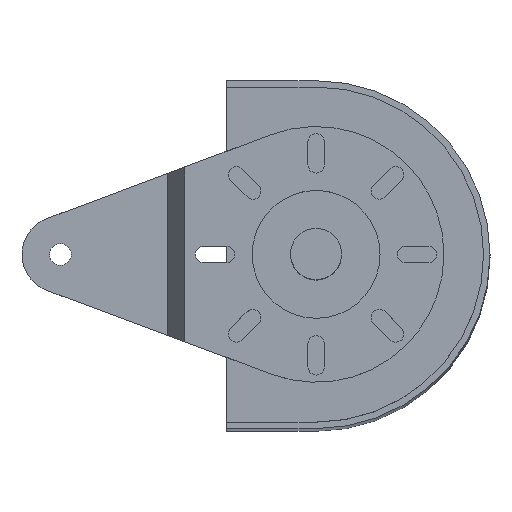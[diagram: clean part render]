
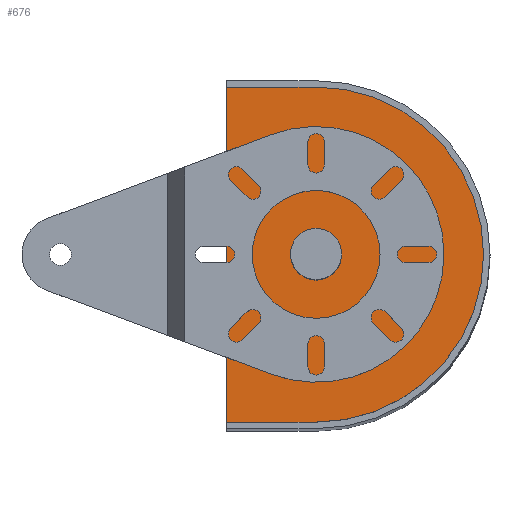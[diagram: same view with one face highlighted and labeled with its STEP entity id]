
A CAD part, top view. The second image highlights one B-rep face of the part: STEP entity #676.
In plain terms, the highlighted planar face has unit normal (0, 0, 1).
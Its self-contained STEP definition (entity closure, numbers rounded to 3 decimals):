
#3 = CARTESIAN_POINT ( 'NONE',  ( -78., 0., 325.25 ) ) ;
#51 = AXIS2_PLACEMENT_3D ( 'NONE', #1742, #2109, #814 ) ;
#97 = ORIENTED_EDGE ( 'NONE', *, *, #1626, .T. ) ;
#267 = EDGE_LOOP ( 'NONE', ( #1678, #1182 ) ) ;
#285 = PLANE ( 'NONE',  #731 ) ;
#305 = EDGE_CURVE ( 'NONE', #1442, #920, #740, .T. ) ;
#313 = FACE_BOUND ( 'NONE', #267, .T. ) ;
#378 = ORIENTED_EDGE ( 'NONE', *, *, #1436, .T. ) ;
#395 = LINE ( 'NONE', #1333, #793 ) ;
#428 = DIRECTION ( 'NONE',  ( -1., 0., 0. ) ) ;
#430 = CARTESIAN_POINT ( 'NONE',  ( -68., 0., 325.25 ) ) ;
#432 = ORIENTED_EDGE ( 'NONE', *, *, #2184, .T. ) ;
#462 = DIRECTION ( 'NONE',  ( 1., 0., 0. ) ) ;
#470 = EDGE_CURVE ( 'NONE', #804, #612, #395, .T. ) ;
#516 = DIRECTION ( 'NONE',  ( 0., 0., 1. ) ) ;
#528 = VERTEX_POINT ( 'NONE', #961 ) ;
#612 = VERTEX_POINT ( 'NONE', #1195 ) ;
#627 = DIRECTION ( 'NONE',  ( 0., 0., 1. ) ) ;
#676 = ADVANCED_FACE ( 'NONE', ( #1086, #313 ), #285, .T. ) ;
#731 = AXIS2_PLACEMENT_3D ( 'NONE', #1951, #1002, #462 ) ;
#740 = CIRCLE ( 'NONE', #1547, 10. ) ;
#793 = VECTOR ( 'NONE', #1342, 1000. ) ;
#804 = VERTEX_POINT ( 'NONE', #2342 ) ;
#805 = EDGE_CURVE ( 'NONE', #920, #1442, #885, .T. ) ;
#814 = DIRECTION ( 'NONE',  ( 1., 0., 0. ) ) ;
#885 = CIRCLE ( 'NONE', #1792, 10. ) ;
#896 = ORIENTED_EDGE ( 'NONE', *, *, #470, .T. ) ;
#920 = VERTEX_POINT ( 'NONE', #3 ) ;
#961 = CARTESIAN_POINT ( 'NONE',  ( -68., 65.5, 325.25 ) ) ;
#1002 = DIRECTION ( 'NONE',  ( 0., 0., 1. ) ) ;
#1086 = FACE_OUTER_BOUND ( 'NONE', #1622, .T. ) ;
#1134 = VECTOR ( 'NONE', #428, 1000. ) ;
#1182 = ORIENTED_EDGE ( 'NONE', *, *, #305, .F. ) ;
#1195 = CARTESIAN_POINT ( 'NONE',  ( -103., -65.5, 325.25 ) ) ;
#1199 = VECTOR ( 'NONE', #1435, 1000. ) ;
#1265 = VERTEX_POINT ( 'NONE', #1332 ) ;
#1306 = CIRCLE ( 'NONE', #51, 65.5 ) ;
#1332 = CARTESIAN_POINT ( 'NONE',  ( -68., -65.5, 325.25 ) ) ;
#1333 = CARTESIAN_POINT ( 'NONE',  ( -103., 65.5, 325.25 ) ) ;
#1342 = DIRECTION ( 'NONE',  ( 0., -1., 0. ) ) ;
#1366 = CARTESIAN_POINT ( 'NONE',  ( -68., 65.5, 325.25 ) ) ;
#1435 = DIRECTION ( 'NONE',  ( 1., 0., 0. ) ) ;
#1436 = EDGE_CURVE ( 'NONE', #1265, #528, #1306, .T. ) ;
#1442 = VERTEX_POINT ( 'NONE', #2262 ) ;
#1547 = AXIS2_PLACEMENT_3D ( 'NONE', #430, #627, #2079 ) ;
#1619 = CARTESIAN_POINT ( 'NONE',  ( -68., 0., 325.25 ) ) ;
#1622 = EDGE_LOOP ( 'NONE', ( #432, #896, #97, #378 ) ) ;
#1626 = EDGE_CURVE ( 'NONE', #612, #1265, #2056, .T. ) ;
#1678 = ORIENTED_EDGE ( 'NONE', *, *, #805, .F. ) ;
#1742 = CARTESIAN_POINT ( 'NONE',  ( -68., 0., 325.25 ) ) ;
#1792 = AXIS2_PLACEMENT_3D ( 'NONE', #1619, #516, #1812 ) ;
#1805 = CARTESIAN_POINT ( 'NONE',  ( -103., -65.5, 325.25 ) ) ;
#1812 = DIRECTION ( 'NONE',  ( 1., 0., 0. ) ) ;
#1951 = CARTESIAN_POINT ( 'NONE',  ( -68., 0., 325.25 ) ) ;
#2000 = LINE ( 'NONE', #1366, #1134 ) ;
#2056 = LINE ( 'NONE', #1805, #1199 ) ;
#2079 = DIRECTION ( 'NONE',  ( 1., 0., 0. ) ) ;
#2109 = DIRECTION ( 'NONE',  ( 0., 0., 1. ) ) ;
#2184 = EDGE_CURVE ( 'NONE', #528, #804, #2000, .T. ) ;
#2262 = CARTESIAN_POINT ( 'NONE',  ( -58., 0., 325.25 ) ) ;
#2342 = CARTESIAN_POINT ( 'NONE',  ( -103., 65.5, 325.25 ) ) ;
